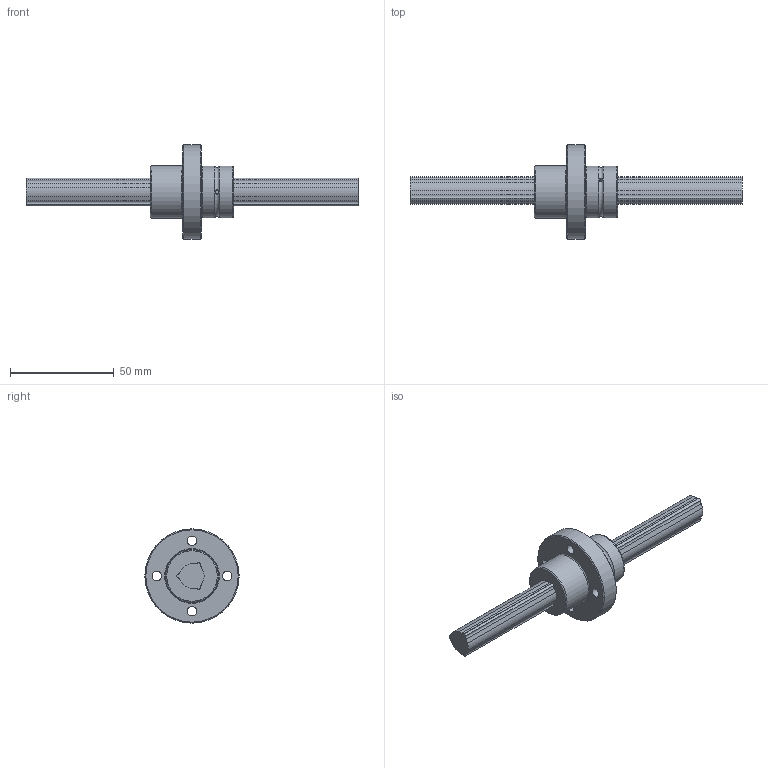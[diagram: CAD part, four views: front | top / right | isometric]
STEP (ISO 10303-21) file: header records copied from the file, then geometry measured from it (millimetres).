
FILE_DESCRIPTION(/* description */ ('STEP AP214'),/* implementation_level */ '2;1');
FILE_NAME(/* name */ 'LBR15+160L(40600)',/* time_stamp */ '2024-09-04T13:06:10+02:00',/* author */ ('License CC BY-ND 4.0'),/* organization */ ('CADENAS'),/* preprocessor_version */ 'ST-DEVELOPER v19.3',/* originating_system */ 'PARTsolutions',/* authorisation */ ' ');
FILE_SCHEMA (('AUTOMOTIVE_DESIGN {1 0 10303 214 3 1 1}'));
Length unit declared in the file: millimetre
Products named in the file (3): LBR15+160L(40600); LBR151160 Spline Shaft; LBR15 Nut
Assembly tree (2 placements, depth 2):
  LBR15+160L(40600)
    LBR151160 Spline Shaft
    LBR15 Nut
Bounding box: 160 x 45.4 x 45.4 mm (x, y, z)
Volume: 43541.2 mm3; surface area: 15759.3 mm2
Topology: 2 solids, 2 shells, 60 faces, 158 edges, 104 vertices
Faces by surface type: cylinder 35, plane 18, torus 5, cone 2
Full cylindrical faces by diameter (mm): 2 x3, 4.5 x4, 25 x2, 25.35 x1, 45.4 x1
Entity records: 1933 total; most frequent: CARTESIAN_POINT 383, DIRECTION 326, ORIENTED_EDGE 272, EDGE_CURVE 136, AXIS2_PLACEMENT_3D 133, VERTEX_POINT 100, EDGE_LOOP 96, FACE_BOUND 96
